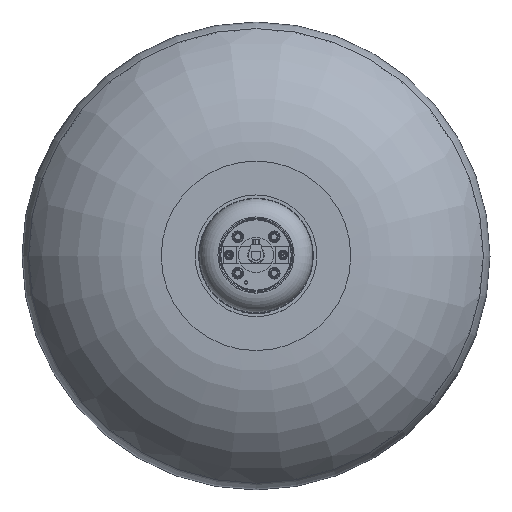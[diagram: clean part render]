
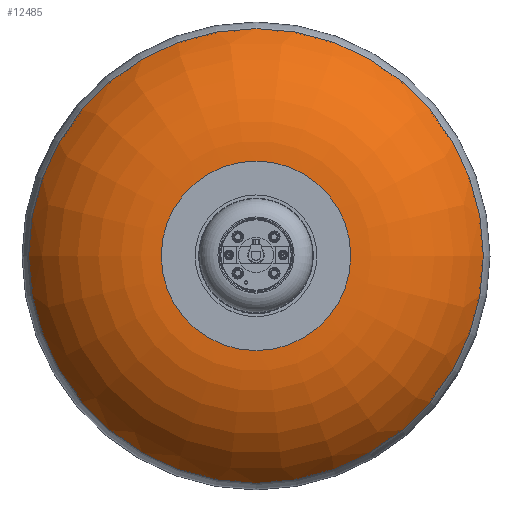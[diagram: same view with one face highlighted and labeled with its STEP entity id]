
A CAD part, top view. The second image highlights one B-rep face of the part: STEP entity #12485.
In plain terms, the highlighted toroidal (fillet/blend) face has major radius 81 mm and minor radius 130 mm.
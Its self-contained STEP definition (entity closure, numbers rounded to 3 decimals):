
#218=DEGENERATE_TOROIDAL_SURFACE('',#15369,81.,130.,.T.);
#5868=ORIENTED_EDGE('',*,*,#7885,.T.);
#5869=ORIENTED_EDGE('',*,*,#7884,.F.);
#7884=EDGE_CURVE('',#9146,#9146,#9780,.T.);
#7885=EDGE_CURVE('',#9147,#9147,#9781,.T.);
#9146=VERTEX_POINT('',#23627);
#9147=VERTEX_POINT('',#23630);
#9780=CIRCLE('',#15368,81.);
#9781=CIRCLE('',#15370,194.285);
#10626=EDGE_LOOP('',(#5868));
#10627=EDGE_LOOP('',(#5869));
#11518=FACE_BOUND('',#10626,.T.);
#11519=FACE_BOUND('',#10627,.T.);
#12485=ADVANCED_FACE('',(#11518,#11519),#218,.T.);
#15368=AXIS2_PLACEMENT_3D('',#23626,#18866,#18867);
#15369=AXIS2_PLACEMENT_3D('',#23628,#18868,#18869);
#15370=AXIS2_PLACEMENT_3D('',#23629,#18870,#18871);
#18866=DIRECTION('',(0.,0.,1.));
#18867=DIRECTION('',(1.,0.,0.));
#18868=DIRECTION('',(0.,0.,1.));
#18869=DIRECTION('',(1.,0.,0.));
#18870=DIRECTION('',(0.,0.,1.));
#18871=DIRECTION('',(1.,0.,0.));
#23626=CARTESIAN_POINT('',(0.,0.,60.));
#23627=CARTESIAN_POINT('',(81.,0.,60.));
#23628=CARTESIAN_POINT('',(0.,0.,-70.));
#23629=CARTESIAN_POINT('',(0.,0.,-6.231));
#23630=CARTESIAN_POINT('',(194.285,0.,-6.231));
